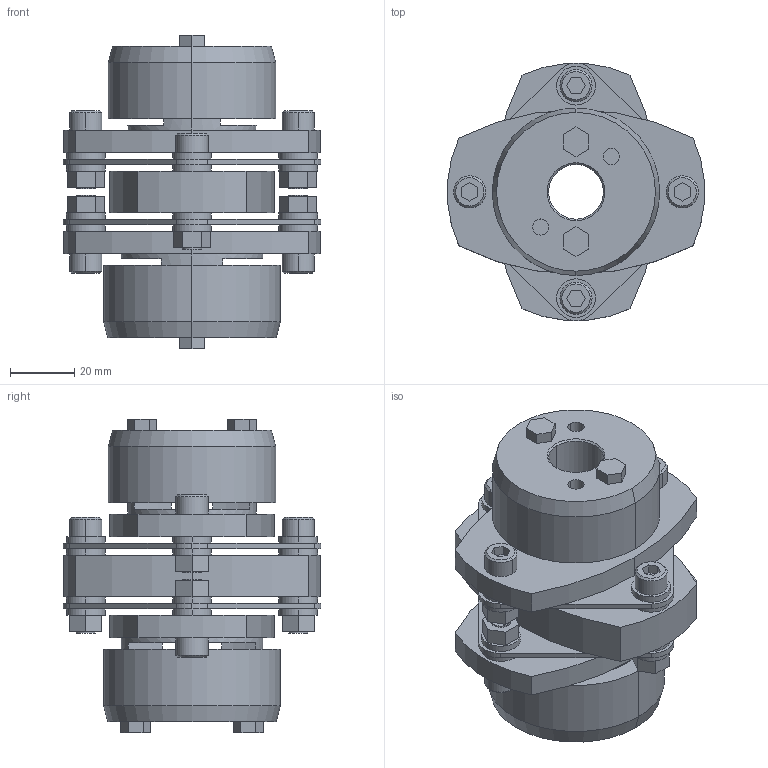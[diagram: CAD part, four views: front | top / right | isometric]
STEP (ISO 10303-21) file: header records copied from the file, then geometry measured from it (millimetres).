
FILE_DESCRIPTION((''),'2;1');
FILE_NAME('LCD-80T7-17×22.stp','2011-09-15T13:10:07',(''),(''),'AutoCAD STEP 2000i','AutoCAD 2000i',', , ');
FILE_SCHEMA(('CONFIG_CONTROL_DESIGN'));
Length unit declared in the file: millimetre
Products named in the file (7): LCD-80T7-17×22; 忣兜1; LC80T7-T022; LC80T7-T019; LC80T7-T017-1; LC80T7-T017; LCD80-ITA
Assembly tree (6 placements, depth 2):
  LCD-80T7-17×22
    忣兜1
    LC80T7-T022
    LC80T7-T019
    LC80T7-T017-1
    LC80T7-T017
    LCD80-ITA
Bounding box: 80 x 79.95 x 97.5 mm (x, y, z)
Volume: 185201 mm3; surface area: 57292 mm2
Topology: 1 solids, 1 shells, 306 faces, 744 edges, 488 vertices
Faces by surface type: plane 162, cylinder 120, cone 24
Entity records: 9247 total; most frequent: DIRECTION 1650, CARTESIAN_POINT 1545, ORIENTED_EDGE 1488, EDGE_CURVE 744, AXIS2_PLACEMENT_3D 593, VERTEX_POINT 488, VECTOR 464, LINE 464
